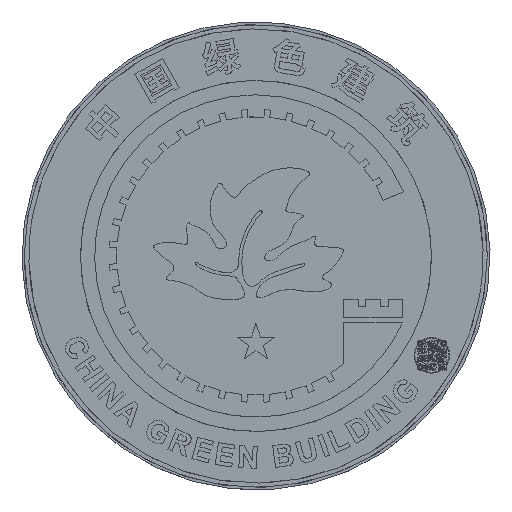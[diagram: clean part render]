
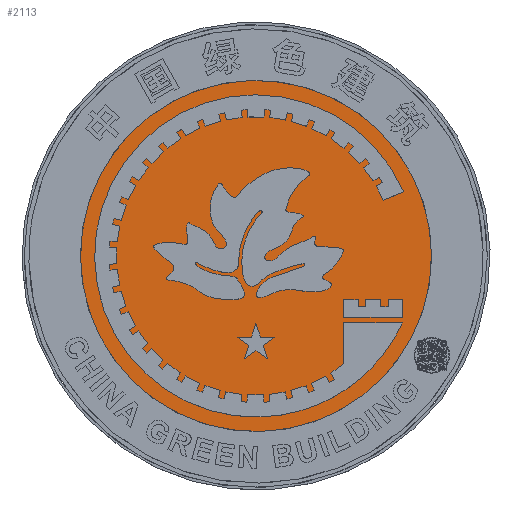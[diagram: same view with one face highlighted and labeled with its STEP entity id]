
A CAD part, top view. The second image highlights one B-rep face of the part: STEP entity #2113.
In plain terms, the highlighted planar face has unit normal (0, 0, 1).
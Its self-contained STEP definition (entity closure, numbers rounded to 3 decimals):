
#2113=ADVANCED_FACE('',(#4367),#31423,.T.);
#4367=FACE_OUTER_BOUND('',#6653,.T.);
#6653=EDGE_LOOP('',(#14397,#14398));
#14397=ORIENTED_EDGE('',*,*,#21095,.T.);
#14398=ORIENTED_EDGE('',*,*,#21098,.T.);
#21095=EDGE_CURVE('',#30016,#30018,#26111,.T.);
#21098=EDGE_CURVE('',#30018,#30016,#26114,.T.);
#26111=B_SPLINE_CURVE_WITH_KNOTS('',3,(#58109,#58110,#58111,#58112,#58113,
#58114,#58115,#58116,#58117,#58118,#58119,#58120,#58121),.UNSPECIFIED.,
 .F.,.F.,(4,3,3,3,4),(-9.,-8.,-7.,-6.,-5.),.UNSPECIFIED.);
#26114=B_SPLINE_CURVE_WITH_KNOTS('',3,(#58137,#58138,#58139,#58140,#58141,
#58142,#58143,#58144,#58145,#58146,#58147,#58148,#58149),.UNSPECIFIED.,
 .F.,.F.,(4,3,3,3,4),(-5.,-4.,-3.,-2.,-1.),.UNSPECIFIED.);
#30016=VERTEX_POINT('',#58091);
#30018=VERTEX_POINT('',#58093);
#31423=PLANE('',#33697);
#33697=AXIS2_PLACEMENT_3D('',#58063,#34491,$);
#34491=DIRECTION('',(0.,0.,1.));
#58063=CARTESIAN_POINT('',(8169.668,642.805,10.));
#58091=CARTESIAN_POINT('',(7973.681,-83.449,10.));
#58093=CARTESIAN_POINT('',(7427.851,431.262,10.));
#58109=CARTESIAN_POINT('',(7973.681,-83.449,10.));
#58110=CARTESIAN_POINT('',(8042.033,-10.959,10.));
#58111=CARTESIAN_POINT('',(8078.647,85.315,10.));
#58112=CARTESIAN_POINT('',(8075.726,184.9,10.));
#58113=CARTESIAN_POINT('',(8072.804,284.5,10.));
#58114=CARTESIAN_POINT('',(8030.609,378.467,10.));
#58115=CARTESIAN_POINT('',(7958.119,446.819,10.));
#58116=CARTESIAN_POINT('',(7885.636,515.179,10.));
#58117=CARTESIAN_POINT('',(7789.355,551.783,10.));
#58118=CARTESIAN_POINT('',(7689.77,548.863,10.));
#58119=CARTESIAN_POINT('',(7590.17,545.943,10.));
#58120=CARTESIAN_POINT('',(7496.211,503.753,10.));
#58121=CARTESIAN_POINT('',(7427.851,431.262,10.));
#58137=CARTESIAN_POINT('',(7427.851,431.262,10.));
#58138=CARTESIAN_POINT('',(7359.498,358.772,10.));
#58139=CARTESIAN_POINT('',(7322.886,262.503,10.));
#58140=CARTESIAN_POINT('',(7325.807,162.907,10.));
#58141=CARTESIAN_POINT('',(7328.727,63.315,10.));
#58142=CARTESIAN_POINT('',(7370.918,-30.652,10.));
#58143=CARTESIAN_POINT('',(7443.408,-99.011,10.));
#58144=CARTESIAN_POINT('',(7515.898,-167.363,10.));
#58145=CARTESIAN_POINT('',(7612.167,-203.969,10.));
#58146=CARTESIAN_POINT('',(7711.763,-201.048,10.));
#58147=CARTESIAN_POINT('',(7811.356,-198.127,10.));
#58148=CARTESIAN_POINT('',(7905.322,-155.939,10.));
#58149=CARTESIAN_POINT('',(7973.681,-83.449,10.));
